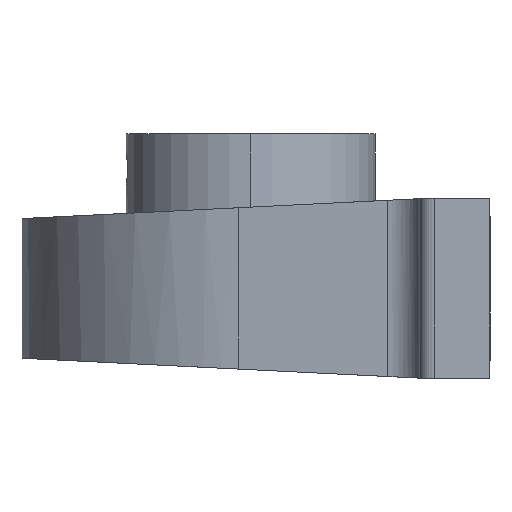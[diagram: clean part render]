
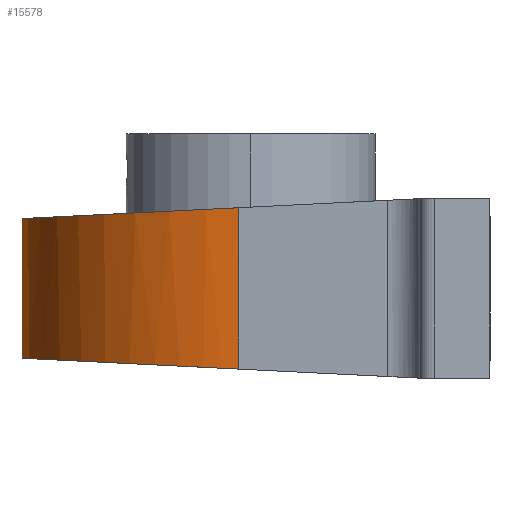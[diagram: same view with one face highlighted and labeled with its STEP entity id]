
A CAD part, left-side view. The second image highlights one B-rep face of the part: STEP entity #15578.
In plain terms, the highlighted cylindrical face has radius 23 mm (diameter 46 mm), a partial arc.
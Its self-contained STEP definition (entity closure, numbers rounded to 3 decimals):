
#128 = EDGE_CURVE ( 'NONE', #8670, #10268, #10680, .T. ) ;
#279 = CARTESIAN_POINT ( 'NONE',  ( 54.292, 66.731, -6.013 ) ) ;
#293 = CARTESIAN_POINT ( 'NONE',  ( 10.532, 25.204, 0. ) ) ;
#646 = CARTESIAN_POINT ( 'NONE',  ( 56.468, 25.204, 0. ) ) ;
#1290 = CARTESIAN_POINT ( 'NONE',  ( 12.708, 66.731, 6.013 ) ) ;
#1550 = VERTEX_POINT ( 'NONE', #5435 ) ;
#1791 = CARTESIAN_POINT ( 'NONE',  ( 56.468, 25.204, 8.09 ) ) ;
#1882 = CARTESIAN_POINT ( 'NONE',  ( 56.468, 25.204, 8.09 ) ) ;
#2148 =( BOUNDED_CURVE ( )  B_SPLINE_CURVE ( 3, ( #10209, #1290, #11978, #1882 ),
 .UNSPECIFIED., .F., .T. ) 
 B_SPLINE_CURVE_WITH_KNOTS ( ( 4, 4 ),
 ( 1.623, 4.66 ),
 .UNSPECIFIED. ) 
 CURVE ( )  GEOMETRIC_REPRESENTATION_ITEM ( )  RATIONAL_B_SPLINE_CURVE ( ( 1., 0.368, 0.368, 1. ) ) 
 REPRESENTATION_ITEM ( '' )  );
#2897 = CARTESIAN_POINT ( 'NONE',  ( 56.468, 25.204, -8.09 ) ) ;
#4528 = VERTEX_POINT ( 'NONE', #10955 ) ;
#5397 = CARTESIAN_POINT ( 'NONE',  ( 56.468, 25.204, -8.09 ) ) ;
#5428 = CARTESIAN_POINT ( 'NONE',  ( 12.708, 66.731, -6.013 ) ) ;
#5435 = CARTESIAN_POINT ( 'NONE',  ( 10.532, 25.204, -8.09 ) ) ;
#5446 = DIRECTION ( 'NONE',  ( 0., 0., -1. ) ) ;
#5545 = ORIENTED_EDGE ( 'NONE', *, *, #11778, .F. ) ;
#5585 = EDGE_CURVE ( 'NONE', #10268, #1550, #9029, .T. ) ;
#6694 = LINE ( 'NONE', #293, #13850 ) ;
#6845 = ORIENTED_EDGE ( 'NONE', *, *, #128, .T. ) ;
#7445 = DIRECTION ( 'NONE',  ( 0., 0., 1. ) ) ;
#8181 = CARTESIAN_POINT ( 'NONE',  ( 10.532, 25.204, -8.09 ) ) ;
#8479 = DIRECTION ( 'NONE',  ( 0., 0., -1. ) ) ;
#8670 = VERTEX_POINT ( 'NONE', #1791 ) ;
#8771 = ORIENTED_EDGE ( 'NONE', *, *, #15924, .T. ) ;
#8796 = CARTESIAN_POINT ( 'NONE',  ( 33.5, 24., 9. ) ) ;
#9029 =( BOUNDED_CURVE ( )  B_SPLINE_CURVE ( 3, ( #2897, #279, #5428, #8181 ),
 .UNSPECIFIED., .F., .F. ) 
 B_SPLINE_CURVE_WITH_KNOTS ( ( 4, 4 ),
 ( 1.623, 4.66 ),
 .UNSPECIFIED. ) 
 CURVE ( )  GEOMETRIC_REPRESENTATION_ITEM ( )  RATIONAL_B_SPLINE_CURVE ( ( 1., 0.368, 0.368, 1. ) ) 
 REPRESENTATION_ITEM ( '' )  );
#10209 = CARTESIAN_POINT ( 'NONE',  ( 10.532, 25.204, 8.09 ) ) ;
#10268 = VERTEX_POINT ( 'NONE', #5397 ) ;
#10680 = LINE ( 'NONE', #646, #16600 ) ;
#10767 = EDGE_LOOP ( 'NONE', ( #16146, #5545, #8771, #6845 ) ) ;
#10955 = CARTESIAN_POINT ( 'NONE',  ( 10.532, 25.204, 8.09 ) ) ;
#11235 = CYLINDRICAL_SURFACE ( 'NONE', #12672, 23. ) ;
#11778 = EDGE_CURVE ( 'NONE', #4528, #1550, #6694, .T. ) ;
#11978 = CARTESIAN_POINT ( 'NONE',  ( 54.292, 66.731, 6.013 ) ) ;
#12672 = AXIS2_PLACEMENT_3D ( 'NONE', #8796, #7445, #14005 ) ;
#13850 = VECTOR ( 'NONE', #5446, 1000. ) ;
#14005 = DIRECTION ( 'NONE',  ( 1., 0., 0. ) ) ;
#15578 = ADVANCED_FACE ( 'NONE', ( #16362 ), #11235, .T. ) ;
#15924 = EDGE_CURVE ( 'NONE', #4528, #8670, #2148, .T. ) ;
#16146 = ORIENTED_EDGE ( 'NONE', *, *, #5585, .T. ) ;
#16362 = FACE_OUTER_BOUND ( 'NONE', #10767, .T. ) ;
#16600 = VECTOR ( 'NONE', #8479, 1000. ) ;
